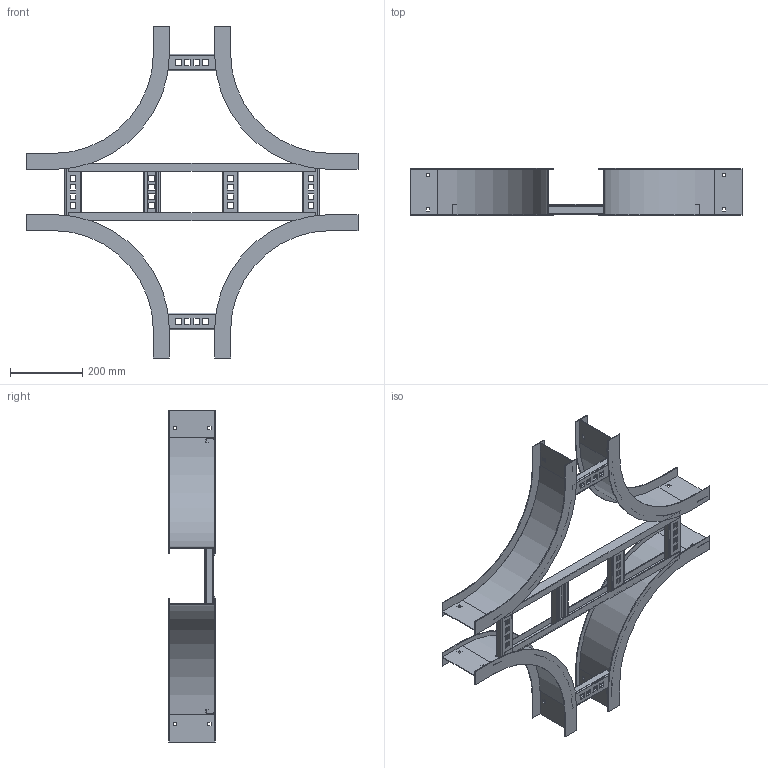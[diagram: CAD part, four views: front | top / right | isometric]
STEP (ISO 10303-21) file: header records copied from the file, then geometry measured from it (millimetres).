
FILE_DESCRIPTION((''),'2;1');
FILE_NAME('AHF506LHX12_ASM','2010-01-27T',('erouzier'),(''),'PRO/ENGINEER BY PARAMETRIC TECHNOLOGY CORPORATION, 2008510','PRO/ENGINEER BY PARAMETRIC TECHNOLOGY CORPORATION, 2008510','');
FILE_SCHEMA(('CONFIG_CONTROL_DESIGN'));
Length unit declared in the file: inch
Products named in the file (9): CDS001811-5-90-12-I; CDS002159L6-P_AF7; CDS002159L6-P_AF8; CDS002159L6-P_AF9; CDS002159L6-P_AF10; CDS000495_GEN_AF14; CDS000495_GEN_AF15; CDS002159L6-P; AHF506LHX12_ASM
Assembly tree (12 placements, depth 2):
  AHF506LHX12_ASM
    CDS001811-5-90-12-I  x4
    CDS002159L6-P_AF7
    CDS002159L6-P_AF8
    CDS002159L6-P_AF9
    CDS002159L6-P_AF10
    CDS000495_GEN_AF14
    CDS000495_GEN_AF15
    CDS002159L6-P  x2
Bounding box: 918.46 x 129.03 x 918.46 mm (x, y, z)
Volume: 1463036.6 mm3; surface area: 1481953.8 mm2
Topology: 12 solids, 12 shells, 560 faces, 1608 edges, 1072 vertices
Faces by surface type: plane 374, cylinder 186
Entity records: 12551 total; most frequent: CARTESIAN_POINT 2173, DIRECTION 2136, ORIENTED_EDGE 2136, EDGE_CURVE 1068, VECTOR 786, LINE 786, VERTEX_POINT 712, AXIS2_PLACEMENT_3D 675
